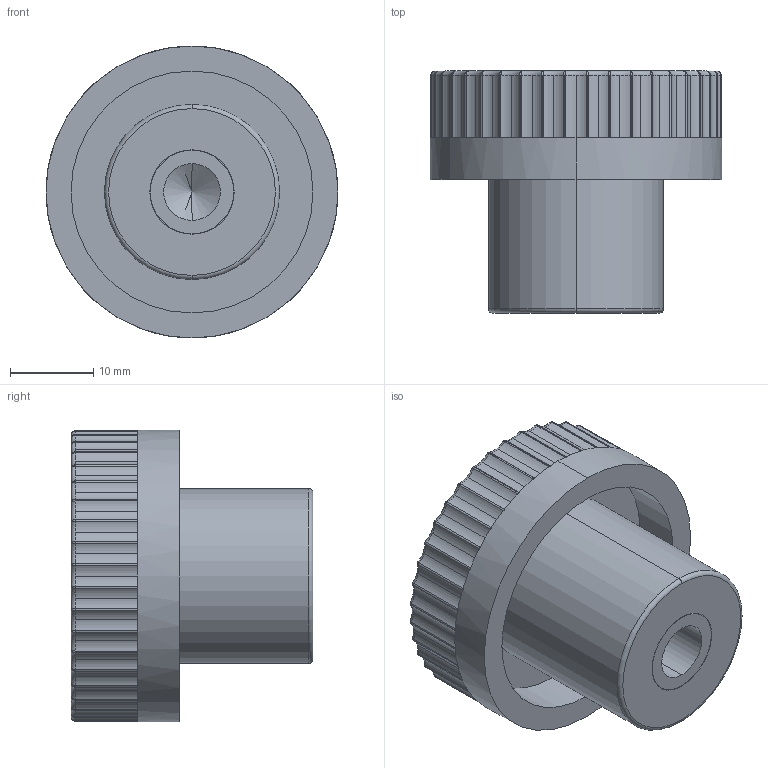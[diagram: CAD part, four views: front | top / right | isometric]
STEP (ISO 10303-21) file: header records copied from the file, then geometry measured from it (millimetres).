
FILE_DESCRIPTION (( 'STEP AP203' ), '1' );
FILE_NAME ('AP-2031-35-M8.STEP', '2015-11-23T10:51:51', ( '' ), ( '' ), 'SwSTEP 2.0', 'SolidWorks 2014', '' );
FILE_SCHEMA (( 'CONFIG_CONTROL_DESIGN' ));
Length unit declared in the file: millimetre
Products named in the file (1): AP-2031-35-M8
Bounding box: 35 x 29 x 35 mm (x, y, z)
Volume: 14023.8 mm3; surface area: 7319.2 mm2
Topology: 2 solids, 2 shells, 252 faces, 638 edges, 355 vertices
Faces by surface type: cylinder 146, torus 53, bspline 40, plane 9, cone 2, sphere 2
Entity records: 8371 total; most frequent: CARTESIAN_POINT 2524, DIRECTION 1310, ORIENTED_EDGE 1192, EDGE_CURVE 596, AXIS2_PLACEMENT_3D 581, CIRCLE 368, VERTEX_POINT 355, EDGE_LOOP 261
